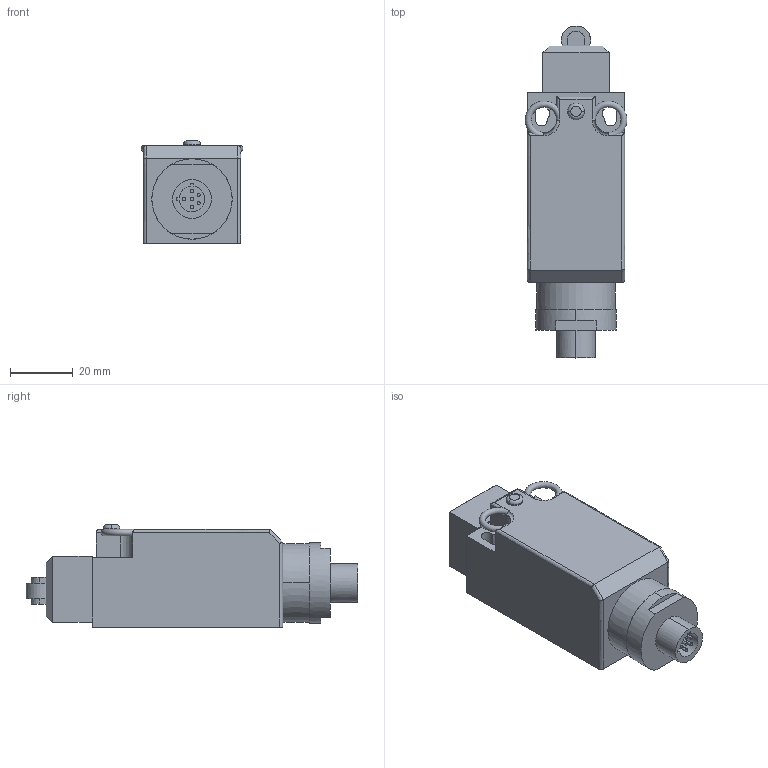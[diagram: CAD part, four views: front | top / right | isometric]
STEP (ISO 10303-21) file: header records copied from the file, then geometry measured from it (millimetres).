
FILE_DESCRIPTION((''),'2;1');
FILE_NAME('440P-C_RP_6PIN_ASM','2013-02-05T',('Administrator'),(''),'PRO/ENGINEER BY PARAMETRIC TECHNOLOGY CORPORATION, 2006010','PRO/ENGINEER BY PARAMETRIC TECHNOLOGY CORPORATION, 2006010','');
FILE_SCHEMA(('CONFIG_CONTROL_DESIGN'));
Length unit declared in the file: inch
Products named in the file (3): 440P-C_RP_HALF_INCH; 440P-C_QUICK_CONN_6PIN; 440P-C_RP_6PIN_ASM
Assembly tree (2 placements, depth 2):
  440P-C_RP_6PIN_ASM
    440P-C_RP_HALF_INCH
    440P-C_QUICK_CONN_6PIN
Bounding box: 32.33 x 105.42 x 32.44 mm (x, y, z)
Surface area: 16026.4 mm2 (no closed solid volume)
Topology: 0 solids, 0 shells, 120 faces, 840 edges, 1070 vertices
Faces by surface type: bspline 116, torus 4
Entity records: 12277 total; most frequent: CARTESIAN_POINT 5778, DIRECTION 1192, TRIMMED_CURVE 996, VECTOR 826, LINE 826, DEFINITIONAL_REPRESENTATION 572, PCURVE 572, COMPOSITE_CURVE_SEGMENT 572
